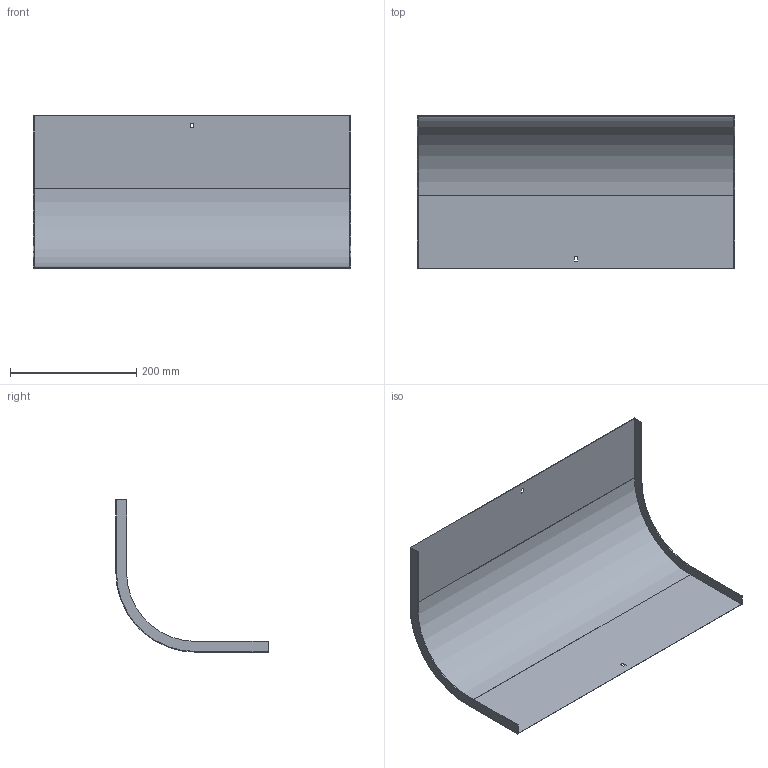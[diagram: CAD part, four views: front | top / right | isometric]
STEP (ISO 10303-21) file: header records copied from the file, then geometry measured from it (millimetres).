
FILE_DESCRIPTION (( 'STEP AP214' ), '1' );
FILE_NAME ('OD9_507.step', '2025-07-16T09:13:43', ( '' ), ( '' ), 'SwSTEP 2.0', 'SolidWorks 2023', '' );
FILE_SCHEMA (( 'AUTOMOTIVE_DESIGN' ));
Length unit declared in the file: millimetre
Products named in the file (1): OD9_507
Bounding box: 502 x 241 x 241 mm (x, y, z)
Volume: 227578.8 mm3; surface area: 457081.6 mm2
Topology: 1 solids, 1 shells, 26 faces, 72 edges, 48 vertices
Faces by surface type: plane 22, cylinder 4
Entity records: 855 total; most frequent: CARTESIAN_POINT 147, ORIENTED_EDGE 144, DIRECTION 134, EDGE_CURVE 72, VECTOR 64, LINE 64, VERTEX_POINT 48, AXIS2_PLACEMENT_3D 35
